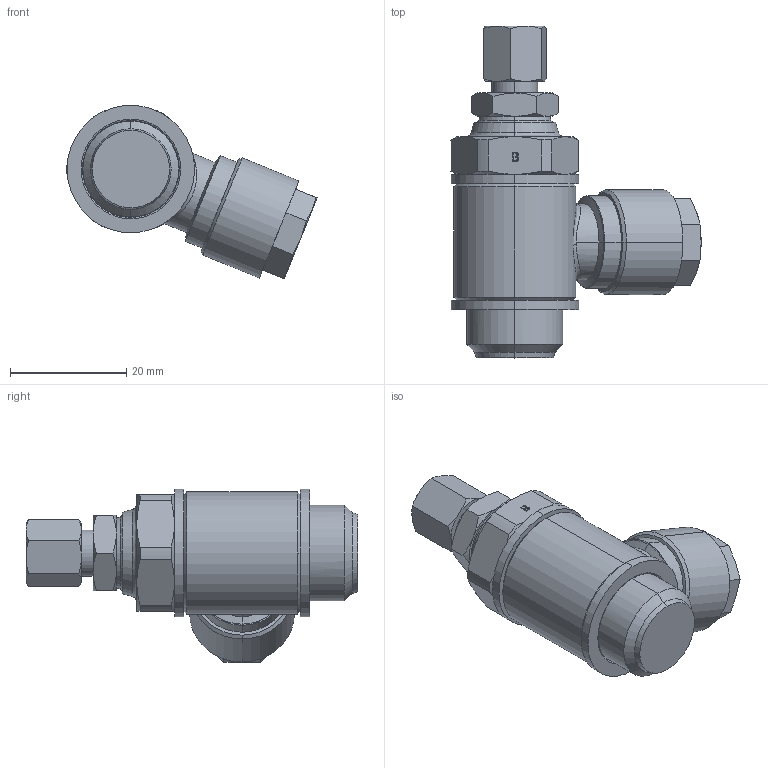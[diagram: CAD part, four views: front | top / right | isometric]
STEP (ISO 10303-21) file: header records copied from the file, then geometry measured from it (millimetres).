
FILE_DESCRIPTION (( 'STEP AP203' ), '1' );
FILE_NAME ('249893.STEP', '2016-08-10T09:07:01', ( '' ), ( '' ), 'SwSTEP 2.0', 'SolidWorks 2016', '' );
FILE_SCHEMA (( 'CONFIG_CONTROL_DESIGN' ));
Length unit declared in the file: millimetre
Products named in the file (1): 249893
Bounding box: 42.99 x 57 x 29.79 mm (x, y, z)
Volume: 18659.1 mm3; surface area: 5553.4 mm2
Topology: 1 solids, 1 shells, 183 faces, 451 edges, 280 vertices
Faces by surface type: plane 65, cone 62, cylinder 36, bspline 20
Entity records: 7466 total; most frequent: CARTESIAN_POINT 3229, ORIENTED_EDGE 902, DIRECTION 825, EDGE_CURVE 451, AXIS2_PLACEMENT_3D 344, VERTEX_POINT 280, EDGE_LOOP 205, ADVANCED_FACE 183
